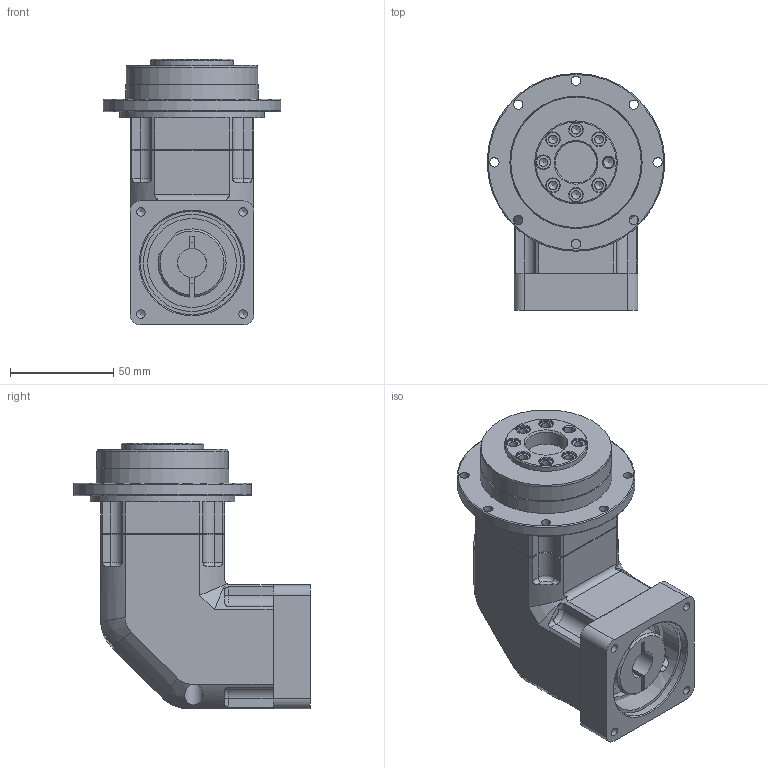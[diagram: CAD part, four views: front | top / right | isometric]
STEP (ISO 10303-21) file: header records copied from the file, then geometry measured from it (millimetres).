
FILE_DESCRIPTION((''),'2;1');
FILE_NAME('C:\Documents and Settings\nagyu\바탕 화면\유성감속기 3D\SPLF060\SPLF060S004~020FA.stp','2009-10-27T09:45:00',('nagyu'),(''),'Autodesk Inventor 2010','Autodesk Inventor 2010','');
FILE_SCHEMA(('AUTOMOTIVE_DESIGN { 1 0 10303 214 1 1 1 1 }'));
Length unit declared in the file: millimetre
Products named in the file (4): SPLF060 1단; SPIF060; 60각 INPUT ADAPTER FLANGE; SPL060 GEARCASE
Assembly tree (3 placements, depth 2):
  SPLF060 1단
    SPIF060
    60각 INPUT ADAPTER FLANGE
    SPL060 GEARCASE
Bounding box: 86 x 114.5 x 128.7 mm (x, y, z)
Volume: 451780.8 mm3; surface area: 78967.7 mm2
Topology: 4 solids, 4 shells, 290 faces, 735 edges, 472 vertices
Faces by surface type: plane 107, cylinder 88, bspline 64, cone 29, torus 2
Full cylindrical faces by diameter (mm): 4.3 x4, 4.5 x8, 7.5 x4, 10 x1, 12 x1, 14 x1, 20 x1, 40 x1, 50 x1, 51 x1, 52 x1, 54 x1, 63.5 x1, 64 x1, 70 x1, 86 x1
Entity records: 9647 total; most frequent: CARTESIAN_POINT 3164, DIRECTION 1258, ORIENTED_EDGE 1220, EDGE_CURVE 610, AXIS2_PLACEMENT_3D 503, VERTEX_POINT 433, EDGE_LOOP 427, FACE_OUTER_BOUND 290
